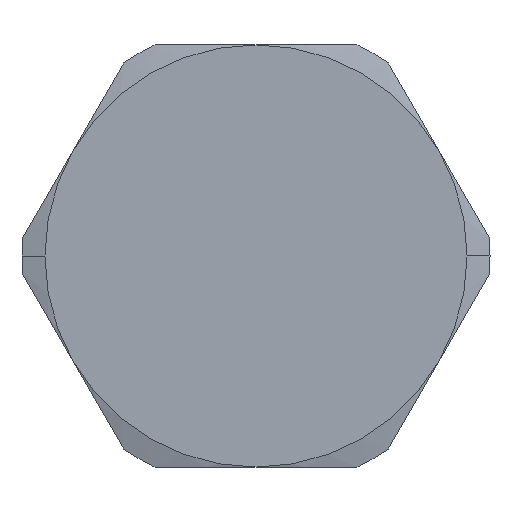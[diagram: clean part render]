
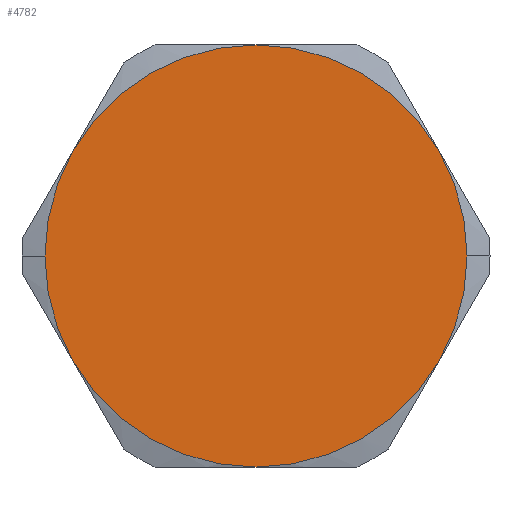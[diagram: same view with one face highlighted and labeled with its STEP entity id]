
A CAD part, left-side view. The second image highlights one B-rep face of the part: STEP entity #4782.
In plain terms, the highlighted planar face has unit normal (-1, 0, 0).
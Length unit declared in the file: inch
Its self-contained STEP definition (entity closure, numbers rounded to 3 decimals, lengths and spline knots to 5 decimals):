
#3292=CARTESIAN_POINT('',(-0.251,-0.4375,0.));
#3293=VERTEX_POINT('',#3292);
#3300=CARTESIAN_POINT('',(-0.251,-0.37889,-0.21875));
#3301=VERTEX_POINT('',#3300);
#3302=CARTESIAN_POINT('',(-0.251,0.,0.));
#3303=DIRECTION('',(-1.0,0.0,0.0));
#3304=DIRECTION('',(0.0,1.0,0.0));
#3305=AXIS2_PLACEMENT_3D('',#3302,#3303,#3304);
#3306=CIRCLE('',#3305,0.4375);
#3307=EDGE_CURVE('',#3301,#3293,#3306,.T.);
#3331=CARTESIAN_POINT('',(-0.251,0.4375,0.));
#3332=VERTEX_POINT('',#3331);
#3348=CARTESIAN_POINT('',(-0.251,0.37889,-0.21875));
#3349=VERTEX_POINT('',#3348);
#3363=CARTESIAN_POINT('',(-0.251,0.,0.));
#3364=DIRECTION('',(-1.0,0.0,0.0));
#3365=DIRECTION('',(0.0,1.0,0.0));
#3366=AXIS2_PLACEMENT_3D('',#3363,#3364,#3365);
#3367=CIRCLE('',#3366,0.4375);
#3368=EDGE_CURVE('',#3332,#3349,#3367,.T.);
#4329=CARTESIAN_POINT('',(-0.251,0.,-0.4375));
#4330=VERTEX_POINT('',#4329);
#4344=CARTESIAN_POINT('',(-0.251,0.,0.));
#4345=DIRECTION('',(-1.0,0.0,0.0));
#4346=DIRECTION('',(0.0,1.0,0.0));
#4347=AXIS2_PLACEMENT_3D('',#4344,#4345,#4346);
#4348=CIRCLE('',#4347,0.4375);
#4349=EDGE_CURVE('',#3349,#4330,#4348,.T.);
#4360=CARTESIAN_POINT('',(-0.251,0.37889,0.21875));
#4361=VERTEX_POINT('',#4360);
#4362=CARTESIAN_POINT('',(-0.251,0.,0.));
#4363=DIRECTION('',(-1.0,0.0,0.0));
#4364=DIRECTION('',(0.0,1.0,0.0));
#4365=AXIS2_PLACEMENT_3D('',#4362,#4363,#4364);
#4366=CIRCLE('',#4365,0.4375);
#4367=EDGE_CURVE('',#4361,#3332,#4366,.T.);
#4391=CARTESIAN_POINT('',(-0.251,0.,0.4375));
#4392=VERTEX_POINT('',#4391);
#4429=CARTESIAN_POINT('',(-0.251,0.,0.));
#4430=DIRECTION('',(-1.0,0.0,0.0));
#4431=DIRECTION('',(0.0,1.0,0.0));
#4432=AXIS2_PLACEMENT_3D('',#4429,#4430,#4431);
#4433=CIRCLE('',#4432,0.4375);
#4434=EDGE_CURVE('',#4392,#4361,#4433,.T.);
#4459=CARTESIAN_POINT('',(-0.251,-0.37889,0.21875));
#4460=VERTEX_POINT('',#4459);
#4461=CARTESIAN_POINT('',(-0.251,0.,0.));
#4462=DIRECTION('',(-1.0,0.0,0.0));
#4463=DIRECTION('',(0.0,1.0,0.0));
#4464=AXIS2_PLACEMENT_3D('',#4461,#4462,#4463);
#4465=CIRCLE('',#4464,0.4375);
#4466=EDGE_CURVE('',#4460,#4392,#4465,.T.);
#4520=CARTESIAN_POINT('',(-0.251,0.,0.));
#4521=DIRECTION('',(-1.0,0.0,0.0));
#4522=DIRECTION('',(0.0,1.0,0.0));
#4523=AXIS2_PLACEMENT_3D('',#4520,#4521,#4522);
#4524=CIRCLE('',#4523,0.4375);
#4525=EDGE_CURVE('',#3293,#4460,#4524,.T.);
#4550=CARTESIAN_POINT('',(-0.251,0.,0.));
#4551=DIRECTION('',(-1.0,0.0,0.0));
#4552=DIRECTION('',(0.0,1.0,0.0));
#4553=AXIS2_PLACEMENT_3D('',#4550,#4551,#4552);
#4554=CIRCLE('',#4553,0.4375);
#4555=EDGE_CURVE('',#4330,#3301,#4554,.T.);
#4767=CARTESIAN_POINT('',(-0.251,0.,0.));
#4768=DIRECTION('',(-1.0,0.0,0.0));
#4769=DIRECTION('',(0.0,-1.0,0.0));
#4770=AXIS2_PLACEMENT_3D('',#4767,#4768,#4769);
#4771=PLANE('',#4770);
#4772=ORIENTED_EDGE('',*,*,#4555,.T.);
#4773=ORIENTED_EDGE('',*,*,#3307,.T.);
#4774=ORIENTED_EDGE('',*,*,#4525,.T.);
#4775=ORIENTED_EDGE('',*,*,#4466,.T.);
#4776=ORIENTED_EDGE('',*,*,#4434,.T.);
#4777=ORIENTED_EDGE('',*,*,#4367,.T.);
#4778=ORIENTED_EDGE('',*,*,#3368,.T.);
#4779=ORIENTED_EDGE('',*,*,#4349,.T.);
#4780=EDGE_LOOP('',(#4772,#4773,#4774,#4775,#4776,#4777,#4778,#4779));
#4781=FACE_OUTER_BOUND('',#4780,.T.);
#4782=ADVANCED_FACE('',(#4781),#4771,.T.);
